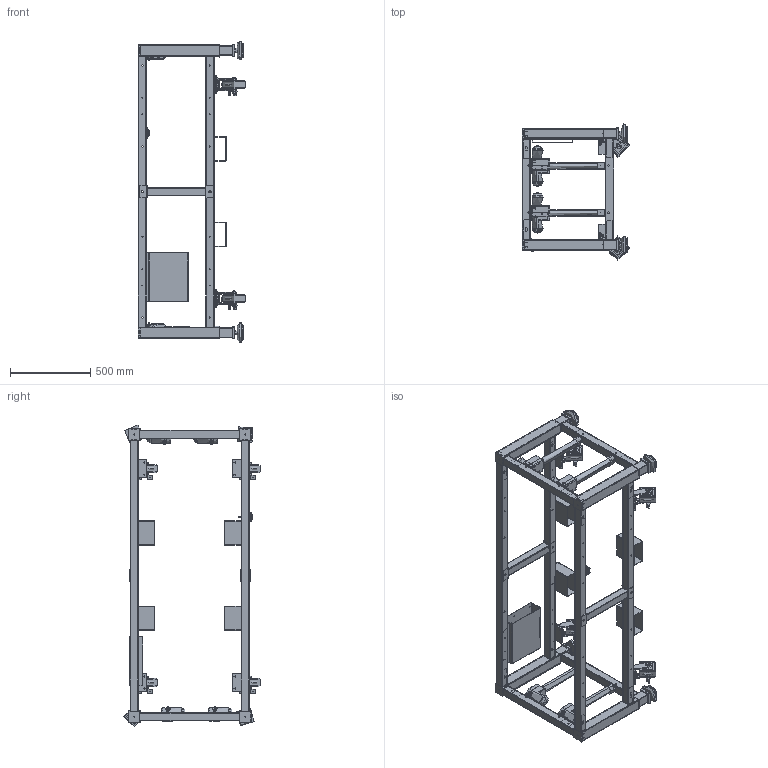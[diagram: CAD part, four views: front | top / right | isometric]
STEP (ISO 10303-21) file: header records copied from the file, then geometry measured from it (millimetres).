
FILE_DESCRIPTION (( 'STEP AP214' ), '1' );
FILE_NAME ('MB3500 72INX30INX26.5IN.STEP', '2020-01-13T14:28:37', ( '' ), ( '' ), 'SwSTEP 2.0', 'SolidWorks 2019', '' );
FILE_SCHEMA (( 'AUTOMOTIVE_DESIGN' ));
Length unit declared in the file: millimetre
Products named in the file (2): MB3500 72INX30INX26.5IN
Bounding box: 670.03 x 848.26 x 1881.04 mm (x, y, z)
Topology: 0 solids, 190 shells, 10368 faces, 27067 edges, 17089 vertices
Faces by surface type: plane 3768, cylinder 3430, bspline 2114, torus 524, cone 444, sphere 88
Full cylindrical faces by diameter (mm): 1.575 x8, 1.778 x8, 3 x8, 3.3 x8, 4 x2, 4.039 x4, 4.2 x12, 4.252 x8, 4.5 x4, 4.521 x8, 4.6 x1, 4.762 x2, 4.763 x6, 5 x68, 6 x14, 6.5 x16, 6.6 x4, 6.8 x39, 7 x4, 7.117 x8, 7.5 x4, 8 x2, 8.5 x4, 9 x8, 9.7 x8, 10.1 x16, 10.3 x8, 10.5 x44, 11 x12, 12.5 x4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
Entity records: 579561 total; most frequent: CARTESIAN_POINT 235810, ORIENTED_EDGE 49900, DIRECTION 41459, EDGE_CURVE 25440, VERTEX_POINT 16645, AXIS2_PLACEMENT_3D 15209, EDGE_LOOP 12747, FACE_OUTER_BOUND 11123
